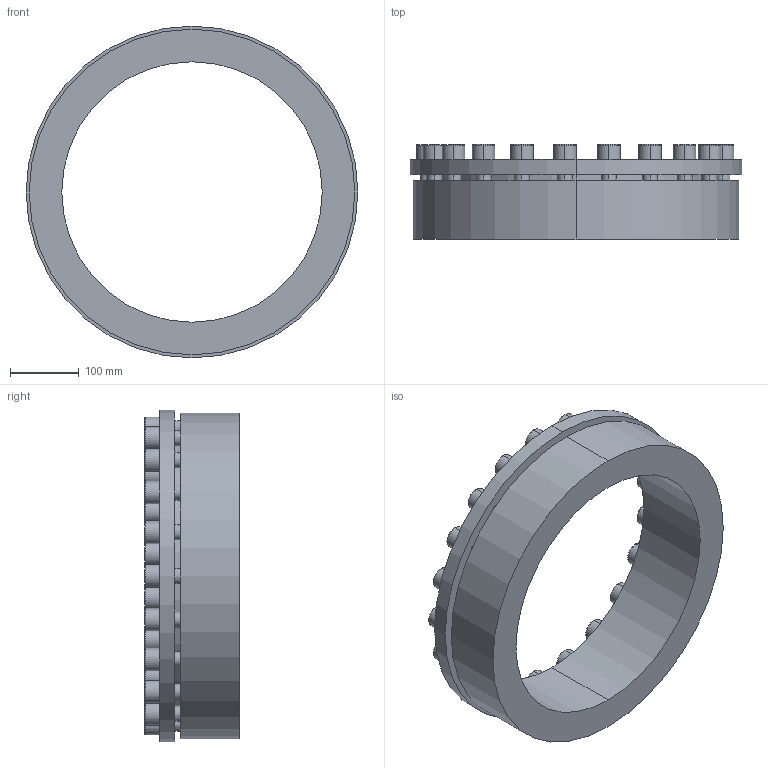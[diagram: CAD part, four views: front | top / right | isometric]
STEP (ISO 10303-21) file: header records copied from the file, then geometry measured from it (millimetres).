
FILE_DESCRIPTION (( 'STEP AP203' ), '1' );
FILE_NAME ('PL-H6 380-475.STEP', '2021-10-23T01:41:25', ( '' ), ( '' ), 'SwSTEP 2.0', 'SolidWorks 2018', '' );
FILE_SCHEMA (( 'CONFIG_CONTROL_DESIGN' ));
Length unit declared in the file: millimetre
Products named in the file (1): PL-H6 380-475
Bounding box: 484 x 138 x 484 mm (x, y, z)
Volume: 7532613.1 mm3; surface area: 611981.4 mm2
Topology: 1 solids, 1 shells, 306 faces, 738 edges, 478 vertices
Faces by surface type: plane 172, cylinder 92, torus 42
Entity records: 9099 total; most frequent: DIRECTION 1620, CARTESIAN_POINT 1523, ORIENTED_EDGE 1476, EDGE_CURVE 738, AXIS2_PLACEMENT_3D 575, VERTEX_POINT 478, VECTOR 470, LINE 470
